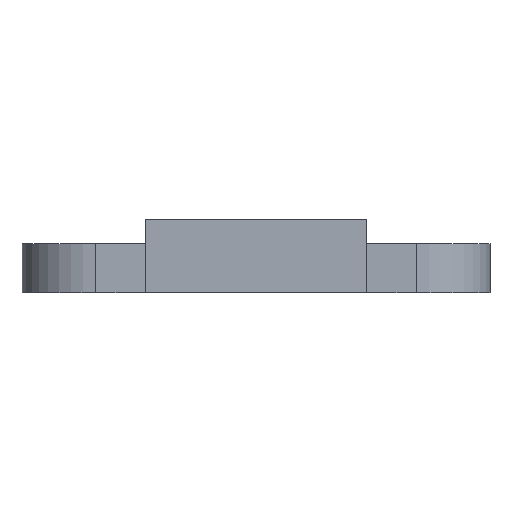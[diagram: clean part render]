
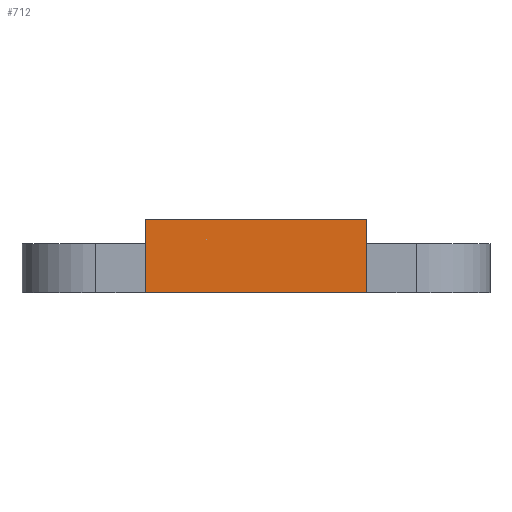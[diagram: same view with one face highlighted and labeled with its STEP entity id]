
A CAD part, front view. The second image highlights one B-rep face of the part: STEP entity #712.
In plain terms, the highlighted planar face has unit normal (0, -1, 0).
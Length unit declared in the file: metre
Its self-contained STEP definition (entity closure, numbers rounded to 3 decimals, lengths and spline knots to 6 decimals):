
#160=ORIENTED_EDGE('',*,*,#314,.F.);
#161=ORIENTED_EDGE('',*,*,#315,.F.);
#162=ORIENTED_EDGE('',*,*,#316,.T.);
#163=ORIENTED_EDGE('',*,*,#311,.T.);
#311=EDGE_CURVE('',#387,#386,#472,.T.);
#314=EDGE_CURVE('',#389,#386,#475,.T.);
#315=EDGE_CURVE('',#390,#389,#476,.T.);
#316=EDGE_CURVE('',#390,#387,#477,.T.);
#386=VERTEX_POINT('',#1129);
#387=VERTEX_POINT('',#1131);
#389=VERTEX_POINT('',#1137);
#390=VERTEX_POINT('',#1139);
#472=LINE('',#1130,#560);
#475=LINE('',#1136,#563);
#476=LINE('',#1138,#564);
#477=LINE('',#1140,#565);
#560=VECTOR('',#922,1.);
#563=VECTOR('',#927,1.);
#564=VECTOR('',#928,1.);
#565=VECTOR('',#929,1.);
#599=EDGE_LOOP('',(#160,#161,#162,#163));
#641=FACE_BOUND('',#599,.T.);
#680=PLANE('',#767);
#712=ADVANCED_FACE('',(#641),#680,.T.);
#767=AXIS2_PLACEMENT_3D('',#1135,#925,#926);
#922=DIRECTION('',(0.,0.,-1.));
#925=DIRECTION('',(0.,-1.,0.));
#926=DIRECTION('',(0.,0.,-1.));
#927=DIRECTION('',(-1.,0.,0.));
#928=DIRECTION('',(0.,0.,-1.));
#929=DIRECTION('',(-1.,0.,0.));
#1129=CARTESIAN_POINT('',(-0.0045,-0.0215,0.));
#1130=CARTESIAN_POINT('',(-0.0045,-0.0215,0.002));
#1131=CARTESIAN_POINT('',(-0.0045,-0.0215,0.003));
#1135=CARTESIAN_POINT('',(0.,-0.0215,0.002));
#1136=CARTESIAN_POINT('',(0.,-0.0215,0.));
#1137=CARTESIAN_POINT('',(0.0045,-0.0215,0.));
#1138=CARTESIAN_POINT('',(0.0045,-0.0215,0.002));
#1139=CARTESIAN_POINT('',(0.0045,-0.0215,0.003));
#1140=CARTESIAN_POINT('',(0.,-0.0215,0.003));
